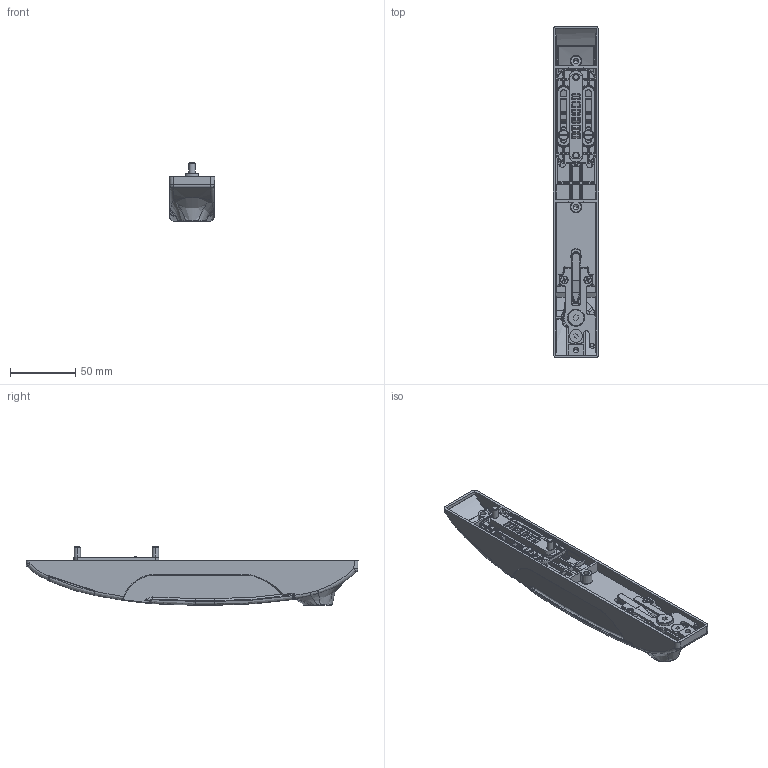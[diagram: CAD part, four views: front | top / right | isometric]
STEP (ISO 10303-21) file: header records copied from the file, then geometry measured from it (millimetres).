
FILE_DESCRIPTION (( 'STEP AP214' ), '1' );
FILE_NAME ('RS1000.001A.STEP', '2025-06-18T06:38:02', ( '' ), ( '' ), 'SwSTEP 2.0', 'SolidWorks 2021', '' );
FILE_SCHEMA (( 'AUTOMOTIVE_DESIGN' ));
Length unit declared in the file: millimetre
Products named in the file (1): RS1000.001A
Bounding box: 35 x 255 x 44.9 mm (x, y, z)
Volume: 98851.1 mm3; surface area: 97939.7 mm2
Topology: 25 solids, 25 shells, 3790 faces, 9050 edges, 5237 vertices
Faces by surface type: cylinder 1287, bspline 881, plane 852, sphere 321, torus 240, cone 209
Entity records: 175324 total; most frequent: CARTESIAN_POINT 53150, ORIENTED_EDGE 17844, DIRECTION 15965, EDGE_CURVE 8922, AXIS2_PLACEMENT_3D 6255, VERTEX_POINT 5206, EDGE_LOOP 3886, UNCERTAINTY_MEASURE_WITH_UNIT 3817
